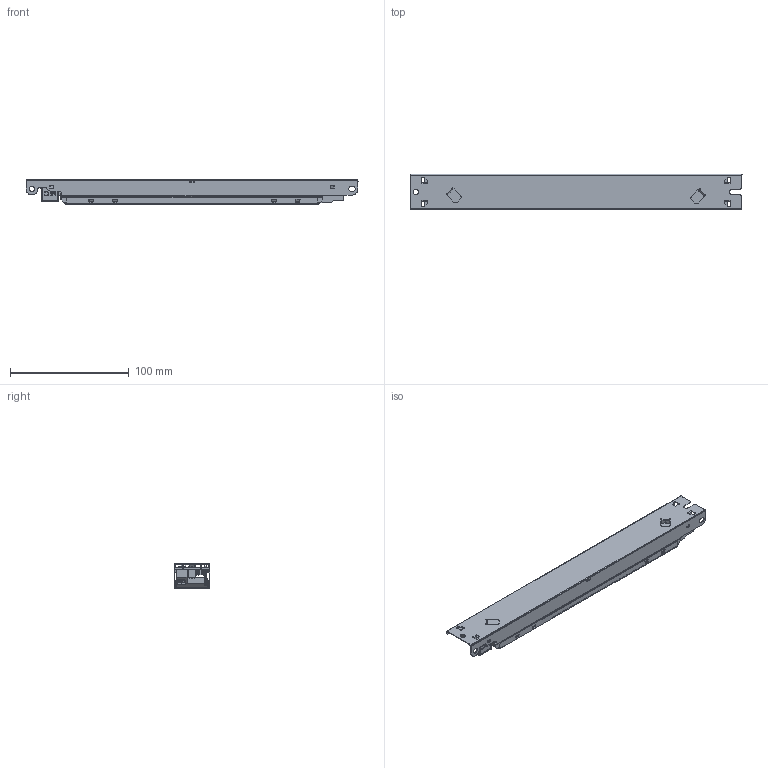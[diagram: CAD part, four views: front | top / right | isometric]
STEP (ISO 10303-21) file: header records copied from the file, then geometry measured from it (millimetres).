
FILE_DESCRIPTION (( 'STEP AP203' ), '1' );
FILE_NAME ('LL80HE-FD-150-850-RAD.STEP', '2024-09-04T18:55:42', ( '' ), ( '' ), 'SwSTEP 2.0', 'SolidWorks 2022', '' );
FILE_SCHEMA (( 'CONFIG_CONTROL_DESIGN' ));
Length unit declared in the file: millimetre
Products named in the file (1): LL80HE-FD-150-850-RAD
Bounding box: 280 x 30.27 x 21 mm (x, y, z)
Volume: 28958.8 mm3; surface area: 74919.4 mm2
Topology: 9 solids, 9 shells, 1355 faces, 3560 edges, 2256 vertices
Faces by surface type: plane 932, cylinder 349, bspline 36, torus 16, sphere 12, cone 10
Entity records: 42123 total; most frequent: CARTESIAN_POINT 8693, ORIENTED_EDGE 7104, DIRECTION 6615, EDGE_CURVE 3552, LINE 2667, VECTOR 2667, VERTEX_POINT 2254, AXIS2_PLACEMENT_3D 1974
